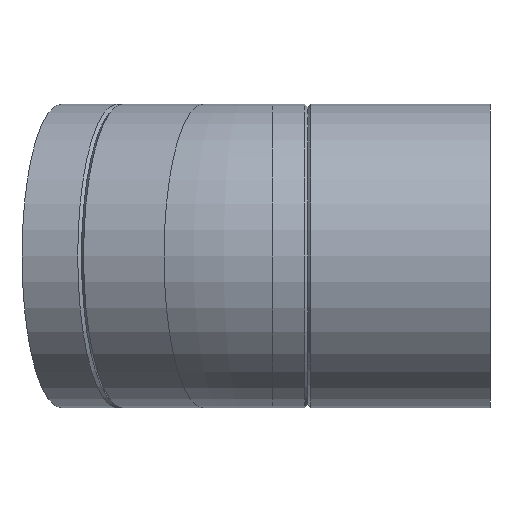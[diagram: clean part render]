
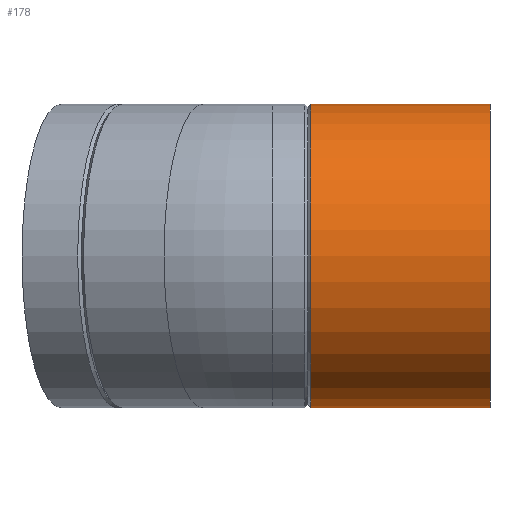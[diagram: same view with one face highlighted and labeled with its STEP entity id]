
A CAD part, left-side view. The second image highlights one B-rep face of the part: STEP entity #178.
In plain terms, the highlighted cylindrical face has radius 62.5 mm (diameter 125 mm), a full revolution.
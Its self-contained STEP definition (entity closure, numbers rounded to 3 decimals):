
#21=CYLINDRICAL_SURFACE($,#208,62.5);
#33=FACE_BOUND($,#73,.T.);
#49=FACE_OUTER_BOUND($,#72,.T.);
#72=EDGE_LOOP($,(#142));
#73=EDGE_LOOP($,(#143));
#83=CIRCLE($,#193,62.5);
#91=CIRCLE($,#209,62.5);
#97=VERTEX_POINT($,#285);
#105=VERTEX_POINT($,#309);
#111=EDGE_CURVE($,#97,#97,#83,.T.);
#119=EDGE_CURVE($,#105,#105,#91,.T.);
#142=ORIENTED_EDGE($,*,*,#111,.T.);
#143=ORIENTED_EDGE($,*,*,#119,.F.);
#178=ADVANCED_FACE($,(#49,#33),#21,.T.);
#193=AXIS2_PLACEMENT_3D($,#286,#232,#233);
#208=AXIS2_PLACEMENT_3D($,#308,#262,#263);
#209=AXIS2_PLACEMENT_3D($,#310,#264,#265);
#232=DIRECTION('center_axis',(0.,-1.,0.));
#233=DIRECTION('ref_axis',(1.,0.,0.));
#262=DIRECTION('center_axis',(0.,1.,0.));
#263=DIRECTION('ref_axis',(1.,0.,0.));
#264=DIRECTION('center_axis',(0.,-1.,0.));
#265=DIRECTION('ref_axis',(1.,0.,0.));
#285=CARTESIAN_POINT('',(-62.5,73.75,0.));
#286=CARTESIAN_POINT('Origin',(0.,73.75,0.));
#308=CARTESIAN_POINT('Origin',(0.,0.,0.));
#309=CARTESIAN_POINT('',(-62.5,0.,0.));
#310=CARTESIAN_POINT('Origin',(0.,0.,0.));
